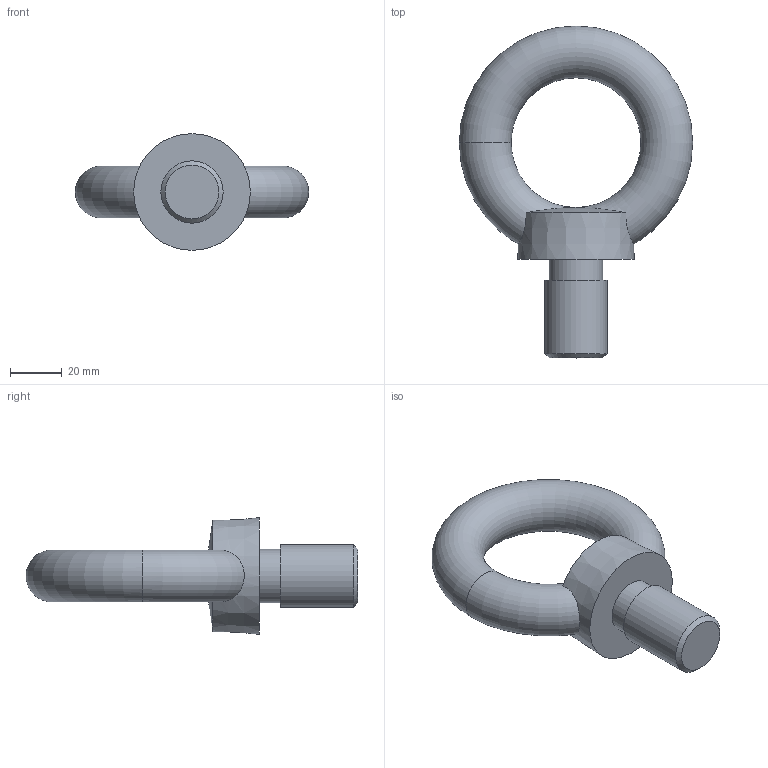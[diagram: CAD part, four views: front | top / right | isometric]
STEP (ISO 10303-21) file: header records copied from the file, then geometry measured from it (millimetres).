
FILE_DESCRIPTION(/* description */ (''),/* implementation_level */ '2;1');
FILE_NAME(/* name */ 'C:\Users\D\Documents\Inventor\各種小物\JIS\アイボルト\M24.stp',/* time_stamp */ '2022-04-27T11:43:23+09:00',/* author */ ('D'),/* organization */ (''),/* preprocessor_version */ 'ST-DEVELOPER v18',/* originating_system */ 'Autodesk Inventor 2020',/* authorisation */ '');
FILE_SCHEMA (('AUTOMOTIVE_DESIGN { 1 0 10303 214 3 1 1 }'));
Length unit declared in the file: millimetre
Products named in the file (1): M8
Bounding box: 90 x 128 x 45 mm (x, y, z)
Volume: 102005.2 mm3; surface area: 19302.8 mm2
Topology: 1 solids, 1 shells, 11 faces, 27 edges, 18 vertices
Faces by surface type: plane 3, cone 2, cylinder 2, sphere 2, torus 2
Full cylindrical faces by diameter (mm): 20.75 x1, 24 x1
Entity records: 449 total; most frequent: CARTESIAN_POINT 138, DIRECTION 60, ORIENTED_EDGE 54, AXIS2_PLACEMENT_3D 28, EDGE_CURVE 27, VERTEX_POINT 18, CIRCLE 16, EDGE_LOOP 13
